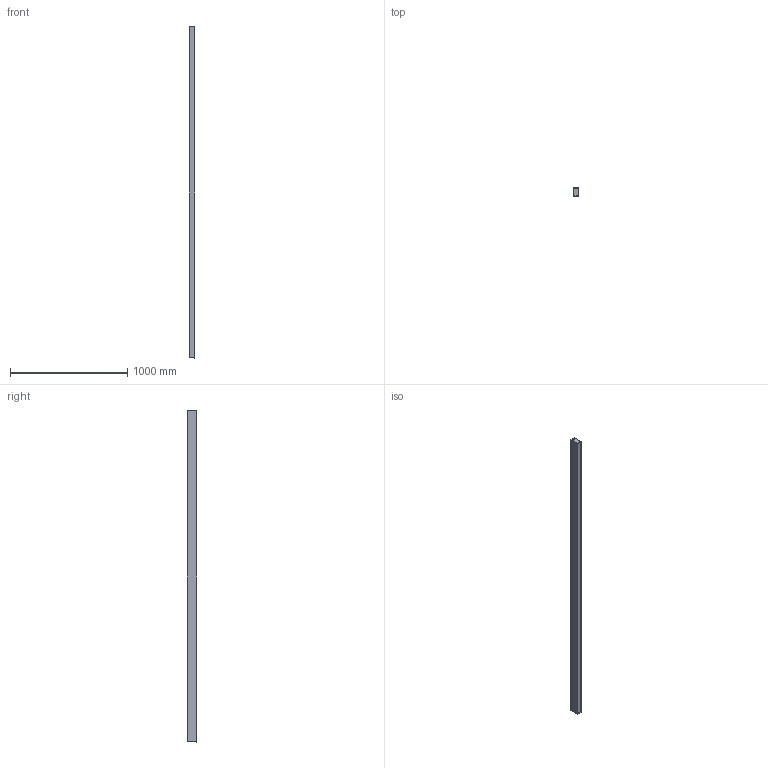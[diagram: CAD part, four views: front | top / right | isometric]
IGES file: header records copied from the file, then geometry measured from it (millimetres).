
Start section: SolidWorks IGES file using analytic representation for surfaces
Global section: file name: C:\Users\JoãoSantos\Desktop\02_3D.2D\01_2020\02_Linear\05_U45\03_Ceiling\U45_SURFACE_2831.IGS; native system: SolidWorks 2020; preprocessor: SolidWorks 2020; author: JoãoSantos; date: 201021.120152; units: millimetre
Bounding box: 45 x 77.5 x 2831 mm (x, y, z)
Surface area: 1356648.1 mm2 (no closed solid volume)
Topology: 0 solids, 0 shells, 200 faces, 1136 edges, 1120 vertices
Faces by surface type: bspline 150, revolution 50
